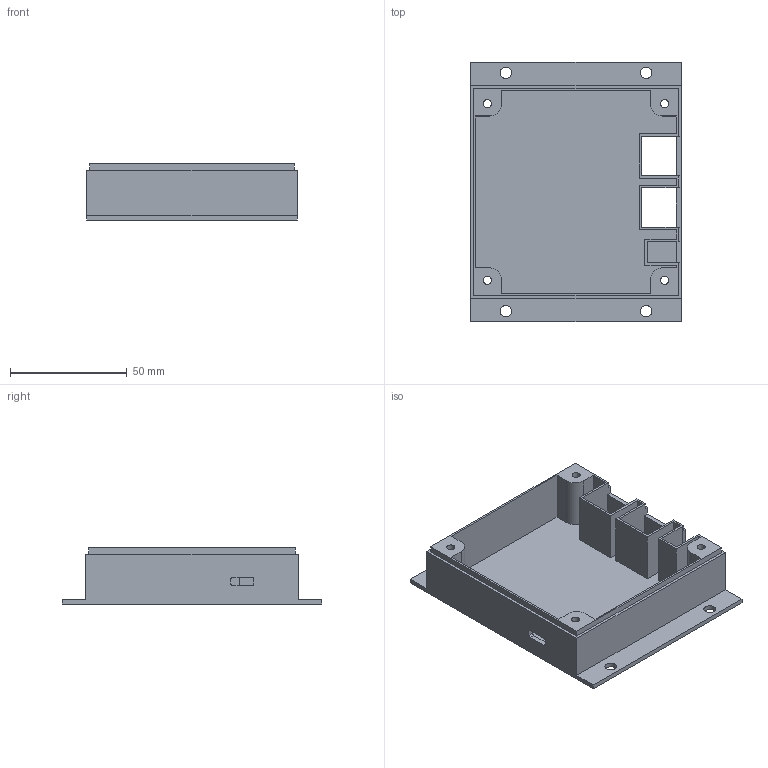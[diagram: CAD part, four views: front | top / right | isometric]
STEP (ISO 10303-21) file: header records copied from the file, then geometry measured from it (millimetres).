
FILE_DESCRIPTION(('STEP AP203'), '1');
FILE_NAME('ﾇﾀﾄﾍﾟﾟ ﾑﾒﾎﾐﾎﾍﾀ', '', ('UNSPECIFIED'), ('UNSPECIFIED'), 'C3D Converter', 'C3D Toolkit', '');
FILE_SCHEMA(('CONFIG_CONTROL_DESIGN'));
Length unit declared in the file: millimetre
Bounding box: 90 x 111 x 24 mm (x, y, z)
Volume: 42491.2 mm3; surface area: 42663.4 mm2
Topology: 1 solids, 1 shells, 423 faces, 1181 edges, 783 vertices
Faces by surface type: extrusion 209, plane 185, cylinder 25, cone 4
Full cylindrical faces by diameter (mm): 3.5 x4, 5 x4, 7 x4
Entity records: 13833 total; most frequent: CARTESIAN_POINT 3744, ORIENTED_EDGE 2330, DIRECTION 1418, EDGE_CURVE 1165, VECTOR 912, VERTEX_POINT 783, LINE 703, B_SPLINE_CURVE_WITH_KNOTS 629
